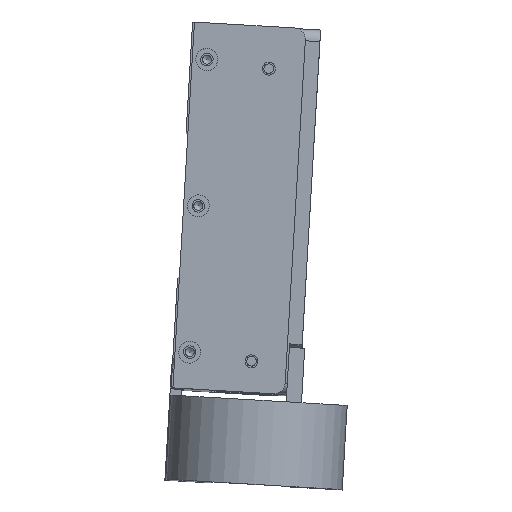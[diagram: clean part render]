
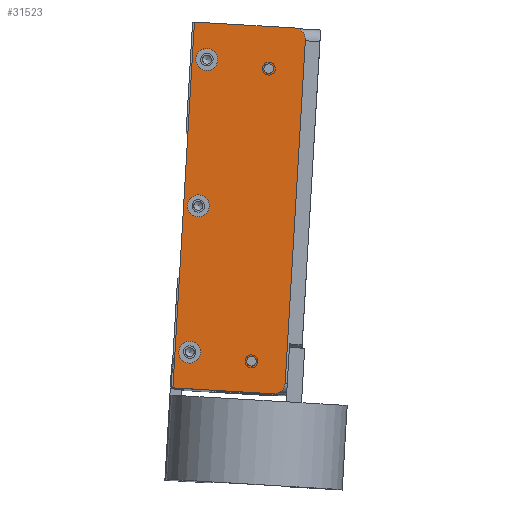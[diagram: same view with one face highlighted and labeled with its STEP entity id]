
A CAD part, top view. The second image highlights one B-rep face of the part: STEP entity #31523.
In plain terms, the highlighted planar face has unit normal (0, 0, 1) as drawn and (0, -1, 0) by its records, which use the part's own axes.
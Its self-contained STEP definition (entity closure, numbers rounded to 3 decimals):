
#918=PLANE($,#34294);
#1979=FACE_BOUND($,#5458,.T.);
#1980=FACE_BOUND($,#5459,.T.);
#1981=FACE_BOUND($,#5460,.T.);
#1982=FACE_BOUND($,#5461,.T.);
#1983=FACE_BOUND($,#5462,.T.);
#1984=FACE_BOUND($,#5463,.T.);
#5458=EDGE_LOOP($,(#25390));
#5459=EDGE_LOOP($,(#25391));
#5460=EDGE_LOOP($,(#25392));
#5461=EDGE_LOOP($,(#25393));
#5462=EDGE_LOOP($,(#25394));
#5463=EDGE_LOOP($,(#25395,#25396,#25397,#25398,#25399,#25400));
#7856=LINE($,#50466,#10659);
#7859=LINE($,#50482,#10662);
#7860=LINE($,#50484,#10663);
#7861=LINE($,#50486,#10664);
#10659=VECTOR($,#40471,93.65);
#10662=VECTOR($,#40486,27.325);
#10663=VECTOR($,#40487,100.);
#10664=VECTOR($,#40488,27.325);
#13318=CIRCLE($,#34291,3.175);
#13320=CIRCLE($,#34295,3.);
#13321=CIRCLE($,#34296,3.);
#13322=CIRCLE($,#34297,3.);
#13323=CIRCLE($,#34298,1.321);
#13324=CIRCLE($,#34299,1.321);
#13325=CIRCLE($,#34300,3.175);
#15237=VERTEX_POINT($,#50456);
#15238=VERTEX_POINT($,#50457);
#15241=VERTEX_POINT($,#50465);
#15243=VERTEX_POINT($,#50471);
#15244=VERTEX_POINT($,#50473);
#15245=VERTEX_POINT($,#50475);
#15246=VERTEX_POINT($,#50477);
#15247=VERTEX_POINT($,#50479);
#15248=VERTEX_POINT($,#50481);
#15249=VERTEX_POINT($,#50483);
#15250=VERTEX_POINT($,#50485);
#18931=EDGE_CURVE($,#15237,#15238,#13318,.T.);
#18935=EDGE_CURVE($,#15238,#15241,#7856,.T.);
#18938=EDGE_CURVE($,#15243,#15243,#13320,.T.);
#18939=EDGE_CURVE($,#15244,#15244,#13321,.T.);
#18940=EDGE_CURVE($,#15245,#15245,#13322,.T.);
#18941=EDGE_CURVE($,#15246,#15246,#13323,.T.);
#18942=EDGE_CURVE($,#15247,#15247,#13324,.T.);
#18943=EDGE_CURVE($,#15237,#15248,#7859,.T.);
#18944=EDGE_CURVE($,#15248,#15249,#7860,.T.);
#18945=EDGE_CURVE($,#15249,#15250,#7861,.T.);
#18946=EDGE_CURVE($,#15241,#15250,#13325,.T.);
#25390=ORIENTED_EDGE($,*,*,#18938,.T.);
#25391=ORIENTED_EDGE($,*,*,#18939,.T.);
#25392=ORIENTED_EDGE($,*,*,#18940,.T.);
#25393=ORIENTED_EDGE($,*,*,#18941,.T.);
#25394=ORIENTED_EDGE($,*,*,#18942,.T.);
#25395=ORIENTED_EDGE($,*,*,#18931,.F.);
#25396=ORIENTED_EDGE($,*,*,#18943,.T.);
#25397=ORIENTED_EDGE($,*,*,#18944,.T.);
#25398=ORIENTED_EDGE($,*,*,#18945,.T.);
#25399=ORIENTED_EDGE($,*,*,#18946,.F.);
#25400=ORIENTED_EDGE($,*,*,#18935,.F.);
#31523=ADVANCED_FACE($,(#1979,#1980,#1981,#1982,#1983,#1984),#918,.T.);
#34291=AXIS2_PLACEMENT_3D($,#50458,#40463,#40464);
#34294=AXIS2_PLACEMENT_3D($,#50470,#40474,#40475);
#34295=AXIS2_PLACEMENT_3D($,#50472,#40476,#40477);
#34296=AXIS2_PLACEMENT_3D($,#50474,#40478,#40479);
#34297=AXIS2_PLACEMENT_3D($,#50476,#40480,#40481);
#34298=AXIS2_PLACEMENT_3D($,#50478,#40482,#40483);
#34299=AXIS2_PLACEMENT_3D($,#50480,#40484,#40485);
#34300=AXIS2_PLACEMENT_3D($,#50487,#40489,#40490);
#40463=DIRECTION('center_axis',(0.,1.,0.));
#40464=DIRECTION('ref_axis',(0.707,0.,0.707));
#40471=DIRECTION($,(0.,0.,-1.));
#40474=DIRECTION('center_axis',(0.,-1.,0.));
#40475=DIRECTION('ref_axis',(0.,0.,-1.));
#40476=DIRECTION('center_axis',(0.,1.,0.));
#40477=DIRECTION('ref_axis',(1.,0.,0.));
#40478=DIRECTION('center_axis',(0.,1.,0.));
#40479=DIRECTION('ref_axis',(1.,0.,0.));
#40480=DIRECTION('center_axis',(0.,1.,0.));
#40481=DIRECTION('ref_axis',(1.,0.,0.));
#40482=DIRECTION('center_axis',(0.,1.,0.));
#40483=DIRECTION('ref_axis',(1.,0.,0.));
#40484=DIRECTION('center_axis',(0.,1.,0.));
#40485=DIRECTION('ref_axis',(1.,0.,0.));
#40486=DIRECTION($,(-1.,0.,0.));
#40487=DIRECTION($,(0.,0.,-1.));
#40488=DIRECTION($,(1.,0.,0.));
#40489=DIRECTION('center_axis',(0.,1.,0.));
#40490=DIRECTION('ref_axis',(0.707,0.,-0.707));
#50456=CARTESIAN_POINT('',(12.075,-2.5,50.));
#50457=CARTESIAN_POINT('',(15.25,-2.5,46.825));
#50458=CARTESIAN_POINT('Origin',(12.075,-2.5,46.825));
#50465=CARTESIAN_POINT('',(15.25,-2.5,-46.825));
#50466=CARTESIAN_POINT($,(15.25,-2.5,0.));
#50470=CARTESIAN_POINT('Origin',(15.25,-2.5,0.));
#50471=CARTESIAN_POINT('',(-8.25,-2.5,0.));
#50472=CARTESIAN_POINT('Origin',(-11.25,-2.5,0.));
#50473=CARTESIAN_POINT('',(-8.25,-2.5,40.));
#50474=CARTESIAN_POINT('Origin',(-11.25,-2.5,40.));
#50475=CARTESIAN_POINT('',(-8.25,-2.5,-40.));
#50476=CARTESIAN_POINT('Origin',(-11.25,-2.5,-40.));
#50477=CARTESIAN_POINT('',(7.071,-2.5,38.5));
#50478=CARTESIAN_POINT('Origin',(5.75,-2.5,38.5));
#50479=CARTESIAN_POINT('',(7.037,-2.5,-41.5));
#50480=CARTESIAN_POINT('Origin',(5.716,-2.5,-41.5));
#50481=CARTESIAN_POINT('',(-15.25,-2.5,50.));
#50482=CARTESIAN_POINT($,(15.25,-2.5,50.));
#50483=CARTESIAN_POINT('',(-15.25,-2.5,-50.));
#50484=CARTESIAN_POINT($,(-15.25,-2.5,0.));
#50485=CARTESIAN_POINT('',(12.075,-2.5,-50.));
#50486=CARTESIAN_POINT($,(15.25,-2.5,-50.));
#50487=CARTESIAN_POINT('Origin',(12.075,-2.5,-46.825));
